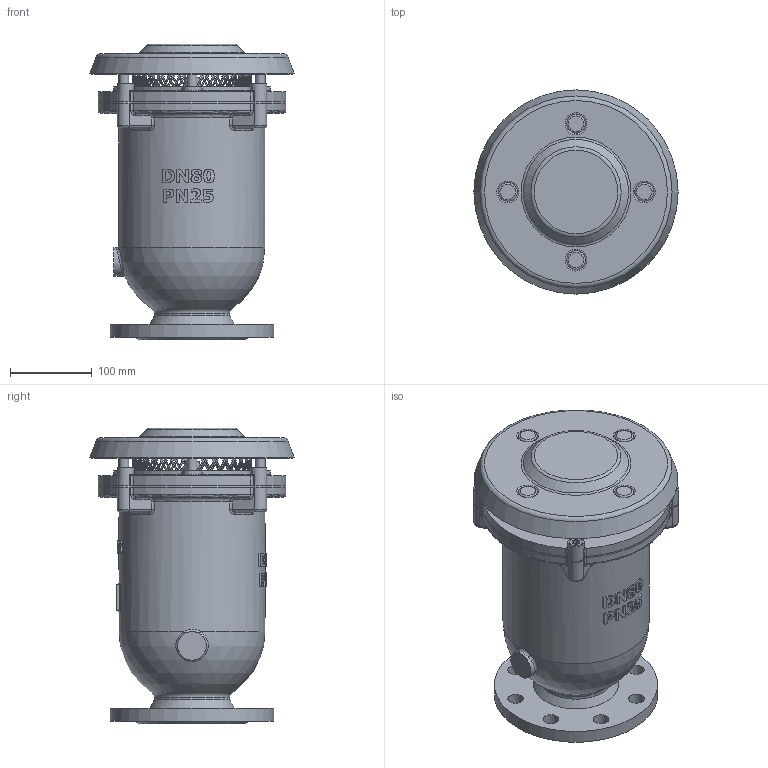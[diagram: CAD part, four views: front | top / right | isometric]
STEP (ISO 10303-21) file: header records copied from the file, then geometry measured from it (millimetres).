
FILE_DESCRIPTION(('STEP AP242'), '1');
FILE_NAME('Âîçäóøíûé êëàïàí DUOJET KX', '', ('UNSPECIFIED'), ('UNSPECIFIED'), 'C3D Converter', 'C3D Toolkit', '');
FILE_SCHEMA(('AP242_MANAGED_MODEL_BASED_3D_ENGINEERING_MIM_LF { 1 0 10303 442 1 1 4 }'));
Length unit declared in the file: millimetre
Assembly tree (29 placements, depth 2):
  (unnamed)
    (unnamed)
    (unnamed)
    (unnamed)
    (unnamed)
    (unnamed)
    (unnamed)
    (unnamed)  x4
    (unnamed)  x4
    (unnamed)
    (unnamed)
    (unnamed)
    (unnamed)  x4
    (unnamed)  x4
    (unnamed)  x4
Bounding box: 250 x 250 x 362 mm (x, y, z)
Volume: 2929077.4 mm3; surface area: 1160892.2 mm2
Topology: 30 solids, 31 shells, 1456 faces, 3860 edges, 2527 vertices
Faces by surface type: bspline 489, plane 435, cylinder 274, extrusion 148, torus 56, cone 41, sphere 13
Full cylindrical faces by diameter (mm): 5.4 x4, 6 x15, 7 x4, 8 x4, 9 x2, 10 x16, 12 x4, 14 x4, 16 x8, 18.274 x1, 19 x8, 20 x6, 26 x1, 35 x1, 80 x2, 92 x1, 116 x2, 122 x1, 139 x1, 143 x4, 145 x1, 155 x2, 167 x1, 177 x2, 179 x3, 200 x1
Entity records: 130539 total; most frequent: CARTESIAN_POINT 98616, ORIENTED_EDGE 6854, DIRECTION 3838, EDGE_CURVE 3427, VERTEX_POINT 2321, B_SPLINE_CURVE_WITH_KNOTS 1993, EDGE_LOOP 1712, FACE_BOUND 1476
